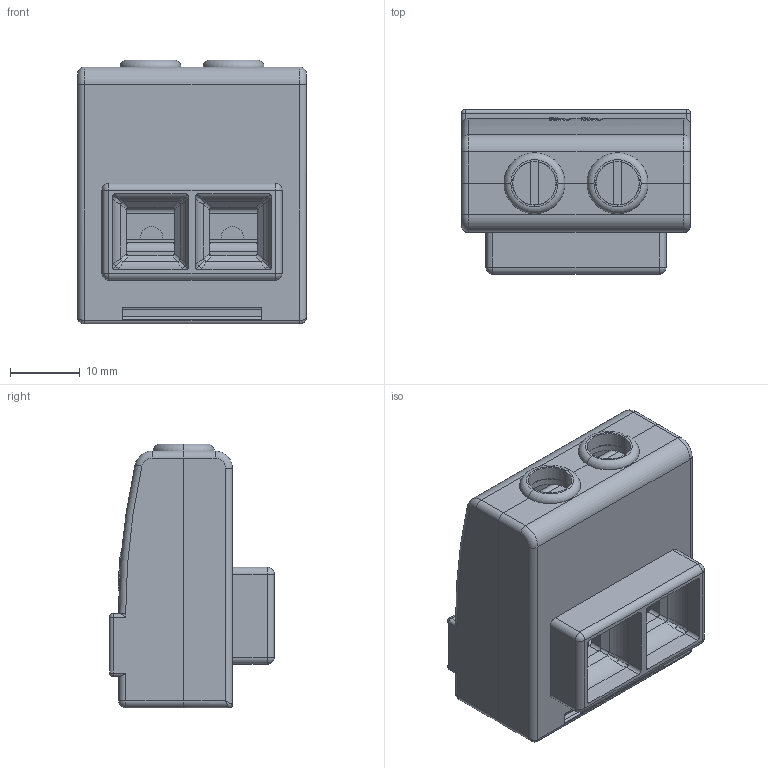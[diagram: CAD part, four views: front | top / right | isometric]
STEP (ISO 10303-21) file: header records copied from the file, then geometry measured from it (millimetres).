
FILE_DESCRIPTION(/* description */ (''),/* implementation_level */ '2;1');
FILE_NAME(/* name */ '4004751.stp',/* time_stamp */ '2019-03-01T15:46:38+01:00',/* author */ (''),/* organization */ (''),/* preprocessor_version */ 'ST-DEVELOPER v16.7',/* originating_system */ 'SIEMENS PLM Software NX 12.0',/* authorisation */ '');
FILE_SCHEMA (('AUTOMOTIVE_DESIGN { 1 0 10303 214 3 1 1 1 }'));
Length unit declared in the file: millimetre
Products named in the file (1): bsom23CC53FBpvpl
Bounding box: 32.8 x 23.6 x 37.8 mm (x, y, z)
Volume: 10786.4 mm3; surface area: 13634.1 mm2
Topology: 7 solids, 7 shells, 745 faces, 2009 edges, 1248 vertices
Faces by surface type: plane 432, cylinder 211, bspline 40, sphere 36, torus 14, cone 12
Full cylindrical faces by diameter (mm): 2.9 x2, 3.2 x2, 4 x4, 6.2 x2, 7.7 x2
Entity records: 29600 total; most frequent: CARTESIAN_POINT 11167, ORIENTED_EDGE 3906, DIRECTION 3705, EDGE_CURVE 1953, LINE 1373, VECTOR 1373, VERTEX_POINT 1240, AXIS2_PLACEMENT_3D 1166
